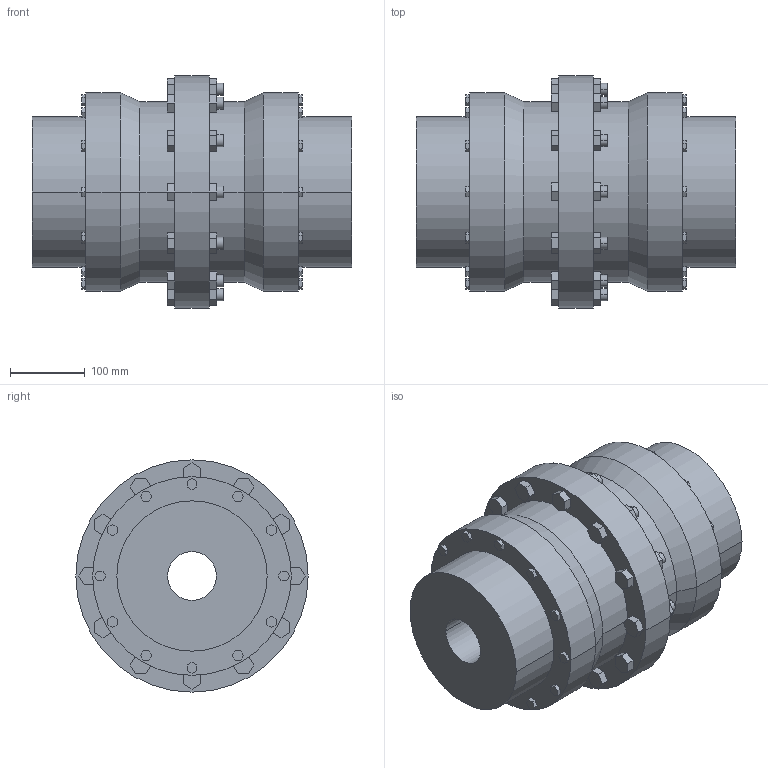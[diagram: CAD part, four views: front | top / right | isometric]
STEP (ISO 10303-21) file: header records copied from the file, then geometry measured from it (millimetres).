
FILE_DESCRIPTION((''),'2;1');
FILE_NAME('A19715600-0_ASM','2019-05-23T',('AB_Roschiwal'),('RENK AG'),'PRO/ENGINEER BY PARAMETRIC TECHNOLOGY CORPORATION, 2015440','PRO/ENGINEER BY PARAMETRIC TECHNOLOGY CORPORATION, 2015440','');
FILE_SCHEMA(('CONFIG_CONTROL_DESIGN'));
Length unit declared in the file: millimetre
Products named in the file (3): SBK125_GEHAEUSE; SBK125_NABE; A19715600-0_ASM
Assembly tree (3 placements, depth 2):
  A19715600-0_ASM
    SBK125_GEHAEUSE
    SBK125_NABE  x2
Bounding box: 426 x 310 x 310 mm (x, y, z)
Volume: 14032792.7 mm3; surface area: 966039.6 mm2
Topology: 3 solids, 3 shells, 422 faces, 1036 edges, 688 vertices
Faces by surface type: plane 362, cylinder 56, cone 4
Entity records: 12052 total; most frequent: CARTESIAN_POINT 2100, ORIENTED_EDGE 2024, DIRECTION 1940, EDGE_CURVE 1012, VECTOR 916, LINE 916, VERTEX_POINT 672, AXIS2_PLACEMENT_3D 512
